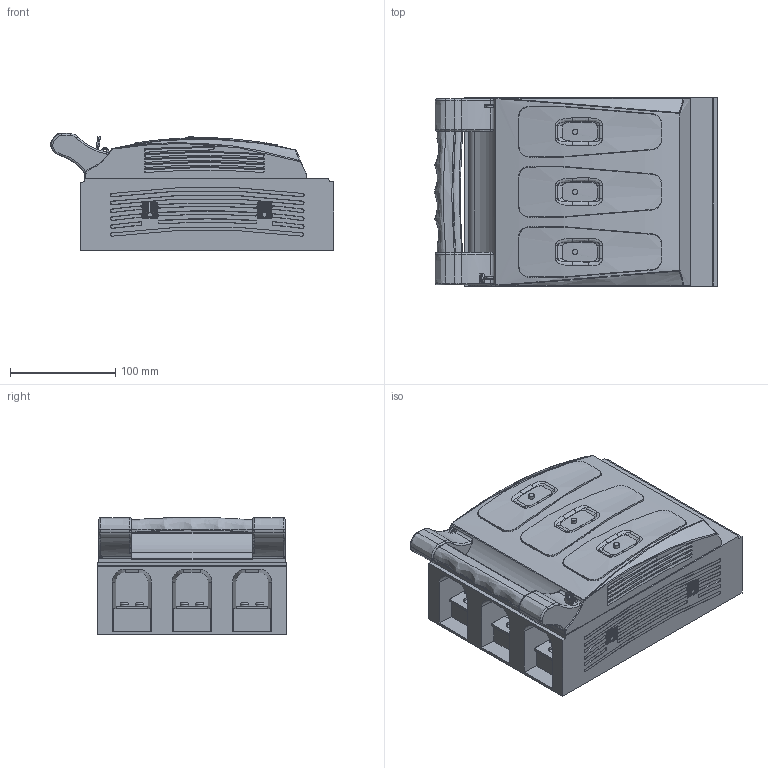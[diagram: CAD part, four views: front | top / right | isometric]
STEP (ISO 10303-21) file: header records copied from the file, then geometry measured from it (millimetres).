
FILE_DESCRIPTION(/* description */ (''),/* implementation_level */ '2;1');
FILE_NAME(/* name */ '335095_SECC 3P BS NH1 TORNILLO.stp',/* time_stamp */ '2021-11-05T14:34:11+01:00',/* author */ (''),/* organization */ (''),/* preprocessor_version */ 'ST-DEVELOPER v18.1',/* originating_system */ 'SIEMENS PLM Software NX 1992',/* authorisation */ '');
FILE_SCHEMA (('AUTOMOTIVE_DESIGN { 1 0 10303 214 3 1 1 1 }'));
Products named in the file (1): 335095_SECC 3P BS NH1 TORNILLO
Bounding box: 268.9 x 180 x 110.97 mm (x, y, z)
Volume: 3712052.9 mm3; surface area: 241529.6 mm2
Topology: 1 solids, 19 shells, 1565 faces, 3915 edges, 2421 vertices
Faces by surface type: plane 744, cylinder 334, cone 192, torus 176, bspline 76, sphere 38, extrusion 3, revolution 2
Full cylindrical faces by diameter (mm): 4.5 x6, 11 x6
Entity records: 54668 total; most frequent: CARTESIAN_POINT 19805, ORIENTED_EDGE 7640, DIRECTION 6556, EDGE_CURVE 3820, AXIS2_PLACEMENT_3D 2465, VERTEX_POINT 2405, EDGE_LOOP 1687, VECTOR 1624
